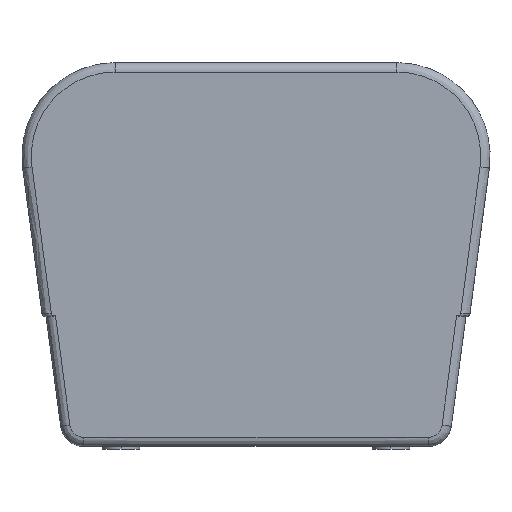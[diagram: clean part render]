
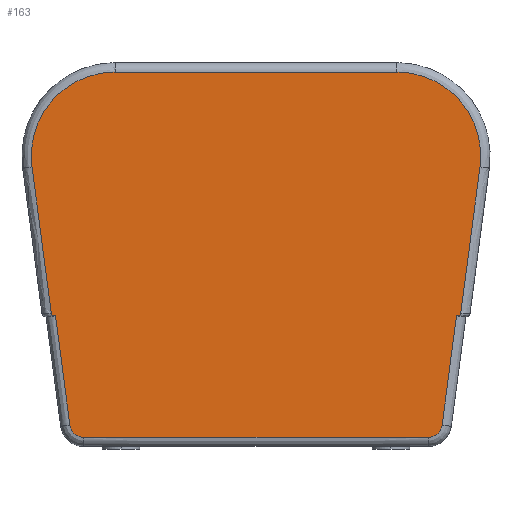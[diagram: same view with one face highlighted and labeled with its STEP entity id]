
A CAD part, left-side view. The second image highlights one B-rep face of the part: STEP entity #163.
In plain terms, the highlighted planar face has unit normal (-1, 0, 0).
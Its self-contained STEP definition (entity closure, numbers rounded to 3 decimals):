
#163=ADVANCED_FACE('',(#217),#876,.T.);
#217=FACE_OUTER_BOUND('',#271,.T.);
#271=EDGE_LOOP('',(#465,#466,#467,#468,#469,#470,#471,#472,#473,#474,#475,
#476));
#465=ORIENTED_EDGE('',*,*,#611,.F.);
#466=ORIENTED_EDGE('',*,*,#610,.F.);
#467=ORIENTED_EDGE('',*,*,#614,.T.);
#468=ORIENTED_EDGE('',*,*,#612,.T.);
#469=ORIENTED_EDGE('',*,*,#613,.T.);
#470=ORIENTED_EDGE('',*,*,#605,.T.);
#471=ORIENTED_EDGE('',*,*,#604,.F.);
#472=ORIENTED_EDGE('',*,*,#606,.F.);
#473=ORIENTED_EDGE('',*,*,#607,.F.);
#474=ORIENTED_EDGE('',*,*,#608,.T.);
#475=ORIENTED_EDGE('',*,*,#609,.T.);
#476=ORIENTED_EDGE('',*,*,#603,.T.);
#603=EDGE_CURVE('',#839,#838,#742,.T.);
#604=EDGE_CURVE('',#849,#840,#743,.T.);
#605=EDGE_CURVE('',#841,#840,#744,.T.);
#606=EDGE_CURVE('',#848,#849,#745,.T.);
#607=EDGE_CURVE('',#844,#848,#746,.T.);
#608=EDGE_CURVE('',#844,#845,#747,.T.);
#609=EDGE_CURVE('',#845,#839,#748,.T.);
#610=EDGE_CURVE('',#843,#842,#749,.T.);
#611=EDGE_CURVE('',#842,#838,#750,.T.);
#612=EDGE_CURVE('',#847,#846,#751,.T.);
#613=EDGE_CURVE('',#846,#841,#752,.T.);
#614=EDGE_CURVE('',#843,#847,#753,.T.);
#742=(
BOUNDED_CURVE()
B_SPLINE_CURVE(3,(#2067,#2068,#2069,#2070),.UNSPECIFIED.,.F.,.F.)
B_SPLINE_CURVE_WITH_KNOTS((4,4),(1527.05,1533.654),
 .UNSPECIFIED.)
CURVE()
GEOMETRIC_REPRESENTATION_ITEM()
RATIONAL_B_SPLINE_CURVE((1.,1.,1.,1.))
REPRESENTATION_ITEM('')
);
#743=(
BOUNDED_CURVE()
B_SPLINE_CURVE(3,(#2071,#2072,#2073,#2074),.UNSPECIFIED.,.F.,.F.)
B_SPLINE_CURVE_WITH_KNOTS((4,4),(-725.281,-566.622),
 .UNSPECIFIED.)
CURVE()
GEOMETRIC_REPRESENTATION_ITEM()
RATIONAL_B_SPLINE_CURVE((1.,1.,1.,1.))
REPRESENTATION_ITEM('')
);
#744=(
BOUNDED_CURVE()
B_SPLINE_CURVE(3,(#2075,#2076,#2077,#2078),.UNSPECIFIED.,.F.,.F.)
B_SPLINE_CURVE_WITH_KNOTS((4,4),(560.018,566.622),
 .UNSPECIFIED.)
CURVE()
GEOMETRIC_REPRESENTATION_ITEM()
RATIONAL_B_SPLINE_CURVE((1.,1.,1.,1.))
REPRESENTATION_ITEM('')
);
#745=(
BOUNDED_CURVE()
B_SPLINE_CURVE(3,(#2079,#2080,#2081,#2082,#2083,#2084,#2085),
 .UNSPECIFIED.,.F.,.F.)
B_SPLINE_CURVE_WITH_KNOTS((4,3,4),(-895.538,-810.409,
-725.281),.UNSPECIFIED.)
CURVE()
GEOMETRIC_REPRESENTATION_ITEM()
RATIONAL_B_SPLINE_CURVE((1.,0.941,0.941,1.,
0.941,0.941,1.))
REPRESENTATION_ITEM('')
);
#746=(
BOUNDED_CURVE()
B_SPLINE_CURVE(3,(#2086,#2087,#2088,#2089),.UNSPECIFIED.,.F.,.F.)
B_SPLINE_CURVE_WITH_KNOTS((4,4),(-1198.134,-895.538),
 .UNSPECIFIED.)
CURVE()
GEOMETRIC_REPRESENTATION_ITEM()
RATIONAL_B_SPLINE_CURVE((1.,1.,1.,1.))
REPRESENTATION_ITEM('')
);
#747=(
BOUNDED_CURVE()
B_SPLINE_CURVE(3,(#2090,#2091,#2092,#2093,#2094,#2095,#2096),
 .UNSPECIFIED.,.F.,.F.)
B_SPLINE_CURVE_WITH_KNOTS((4,3,4),(1198.134,1283.263,1368.391),
 .UNSPECIFIED.)
CURVE()
GEOMETRIC_REPRESENTATION_ITEM()
RATIONAL_B_SPLINE_CURVE((1.,0.941,0.941,1.,
0.941,0.941,1.))
REPRESENTATION_ITEM('')
);
#748=(
BOUNDED_CURVE()
B_SPLINE_CURVE(3,(#2097,#2098,#2099,#2100),.UNSPECIFIED.,.F.,.F.)
B_SPLINE_CURVE_WITH_KNOTS((4,4),(1368.391,1527.05),
 .UNSPECIFIED.)
CURVE()
GEOMETRIC_REPRESENTATION_ITEM()
RATIONAL_B_SPLINE_CURVE((1.,1.,1.,1.))
REPRESENTATION_ITEM('')
);
#749=(
BOUNDED_CURVE()
B_SPLINE_CURVE(3,(#2101,#2102,#2103,#2104,#2105,#2106,#2107),
 .UNSPECIFIED.,.F.,.F.)
B_SPLINE_CURVE_WITH_KNOTS((4,1,1,1,4),(-35.976,-27.282,
-17.988,-8.693,0.),.UNSPECIFIED.)
CURVE()
GEOMETRIC_REPRESENTATION_ITEM()
RATIONAL_B_SPLINE_CURVE((1.,1.,1.,1.,1.,1.,1.))
REPRESENTATION_ITEM('')
);
#750=(
BOUNDED_CURVE()
B_SPLINE_CURVE(3,(#2108,#2109,#2110,#2111),.UNSPECIFIED.,.F.,.F.)
B_SPLINE_CURVE_WITH_KNOTS((4,4),(-118.236,0.),.UNSPECIFIED.)
CURVE()
GEOMETRIC_REPRESENTATION_ITEM()
RATIONAL_B_SPLINE_CURVE((1.,1.,1.,1.))
REPRESENTATION_ITEM('')
);
#751=(
BOUNDED_CURVE()
B_SPLINE_CURVE(3,(#2112,#2113,#2114,#2115,#2116,#2117,#2118),
 .UNSPECIFIED.,.F.,.F.)
B_SPLINE_CURVE_WITH_KNOTS((4,1,1,1,4),(-35.976,-27.282,
-17.988,-8.693,0.),.UNSPECIFIED.)
CURVE()
GEOMETRIC_REPRESENTATION_ITEM()
RATIONAL_B_SPLINE_CURVE((1.,1.,1.,1.,1.,1.,1.))
REPRESENTATION_ITEM('')
);
#752=(
BOUNDED_CURVE()
B_SPLINE_CURVE(3,(#2119,#2120,#2121,#2122),.UNSPECIFIED.,.F.,.F.)
B_SPLINE_CURVE_WITH_KNOTS((4,4),(-118.236,0.),.UNSPECIFIED.)
CURVE()
GEOMETRIC_REPRESENTATION_ITEM()
RATIONAL_B_SPLINE_CURVE((1.,1.,1.,1.))
REPRESENTATION_ITEM('')
);
#753=(
BOUNDED_CURVE()
B_SPLINE_CURVE(3,(#2123,#2124,#2125,#2126),.UNSPECIFIED.,.F.,.F.)
B_SPLINE_CURVE_WITH_KNOTS((4,4),(-369.831,0.),.UNSPECIFIED.)
CURVE()
GEOMETRIC_REPRESENTATION_ITEM()
RATIONAL_B_SPLINE_CURVE((1.,1.,1.,1.))
REPRESENTATION_ITEM('')
);
#838=VERTEX_POINT('',#2055);
#839=VERTEX_POINT('',#2056);
#840=VERTEX_POINT('',#2057);
#841=VERTEX_POINT('',#2058);
#842=VERTEX_POINT('',#2059);
#843=VERTEX_POINT('',#2060);
#844=VERTEX_POINT('',#2061);
#845=VERTEX_POINT('',#2062);
#846=VERTEX_POINT('',#2063);
#847=VERTEX_POINT('',#2064);
#848=VERTEX_POINT('',#2065);
#849=VERTEX_POINT('',#2066);
#876=PLANE('',#950);
#950=AXIS2_PLACEMENT_3D('',#2054,#971,$);
#971=DIRECTION('',(-1.,0.,0.));
#2054=CARTESIAN_POINT('',(0.,-248.859,408.92));
#2055=CARTESIAN_POINT('',(0.,215.32,143.24));
#2056=CARTESIAN_POINT('',(0.,219.672,145.892));
#2057=CARTESIAN_POINT('',(0.,-219.672,145.892));
#2058=CARTESIAN_POINT('',(0.,-215.32,143.24));
#2059=CARTESIAN_POINT('',(0.,199.785,26.029));
#2060=CARTESIAN_POINT('',(0.,184.915,13.));
#2061=CARTESIAN_POINT('',(0.,151.298,405.));
#2062=CARTESIAN_POINT('',(0.,240.518,303.175));
#2063=CARTESIAN_POINT('',(0.,-199.785,26.029));
#2064=CARTESIAN_POINT('',(0.,-184.915,13.));
#2065=CARTESIAN_POINT('',(0.,-151.298,405.));
#2066=CARTESIAN_POINT('',(0.,-240.518,303.175));
#2067=CARTESIAN_POINT('',(0.,219.672,145.892));
#2068=CARTESIAN_POINT('',(0.,219.672,143.997));
#2069=CARTESIAN_POINT('',(0.,218.221,143.113));
#2070=CARTESIAN_POINT('',(0.,215.32,143.24));
#2071=CARTESIAN_POINT('',(0.,-240.518,303.175));
#2072=CARTESIAN_POINT('',(0.,-233.569,250.747));
#2073=CARTESIAN_POINT('',(0.,-226.621,198.319));
#2074=CARTESIAN_POINT('',(0.,-219.672,145.892));
#2075=CARTESIAN_POINT('',(0.,-215.32,143.24));
#2076=CARTESIAN_POINT('',(0.,-218.221,143.113));
#2077=CARTESIAN_POINT('',(0.,-219.672,143.997));
#2078=CARTESIAN_POINT('',(0.,-219.672,145.892));
#2079=CARTESIAN_POINT('',(0.,-151.298,405.));
#2080=CARTESIAN_POINT('',(0.,-177.639,405.));
#2081=CARTESIAN_POINT('',(0.,-201.63,394.124));
#2082=CARTESIAN_POINT('',(0.,-218.99,374.312));
#2083=CARTESIAN_POINT('',(0.,-236.349,354.5));
#2084=CARTESIAN_POINT('',(0.,-243.979,329.288));
#2085=CARTESIAN_POINT('',(0.,-240.518,303.175));
#2086=CARTESIAN_POINT('',(0.,151.298,405.));
#2087=CARTESIAN_POINT('',(0.,50.433,405.));
#2088=CARTESIAN_POINT('',(0.,-50.433,405.));
#2089=CARTESIAN_POINT('',(0.,-151.298,405.));
#2090=CARTESIAN_POINT('',(0.,151.298,405.));
#2091=CARTESIAN_POINT('',(0.,177.639,405.));
#2092=CARTESIAN_POINT('',(0.,201.63,394.124));
#2093=CARTESIAN_POINT('',(0.,218.99,374.312));
#2094=CARTESIAN_POINT('',(0.,236.349,354.5));
#2095=CARTESIAN_POINT('',(0.,243.979,329.288));
#2096=CARTESIAN_POINT('',(0.,240.518,303.175));
#2097=CARTESIAN_POINT('',(0.,240.518,303.175));
#2098=CARTESIAN_POINT('',(0.,233.569,250.747));
#2099=CARTESIAN_POINT('',(0.,226.621,198.319));
#2100=CARTESIAN_POINT('',(0.,219.672,145.892));
#2101=CARTESIAN_POINT('',(0.,184.915,13.));
#2102=CARTESIAN_POINT('',(0.,186.654,12.999));
#2103=CARTESIAN_POINT('',(0.,190.251,13.632));
#2104=CARTESIAN_POINT('',(0.,195.031,16.455));
#2105=CARTESIAN_POINT('',(0.,198.458,20.823));
#2106=CARTESIAN_POINT('',(0.,199.558,24.305));
#2107=CARTESIAN_POINT('',(0.,199.785,26.029));
#2108=CARTESIAN_POINT('',(0.,199.785,26.029));
#2109=CARTESIAN_POINT('',(0.,204.964,65.1));
#2110=CARTESIAN_POINT('',(0.,210.142,104.17));
#2111=CARTESIAN_POINT('',(0.,215.32,143.24));
#2112=CARTESIAN_POINT('',(0.,-184.915,13.));
#2113=CARTESIAN_POINT('',(0.,-186.654,12.999));
#2114=CARTESIAN_POINT('',(0.,-190.251,13.632));
#2115=CARTESIAN_POINT('',(0.,-195.031,16.455));
#2116=CARTESIAN_POINT('',(0.,-198.458,20.823));
#2117=CARTESIAN_POINT('',(0.,-199.558,24.305));
#2118=CARTESIAN_POINT('',(0.,-199.785,26.029));
#2119=CARTESIAN_POINT('',(0.,-199.785,26.029));
#2120=CARTESIAN_POINT('',(0.,-204.964,65.1));
#2121=CARTESIAN_POINT('',(0.,-210.142,104.17));
#2122=CARTESIAN_POINT('',(0.,-215.32,143.24));
#2123=CARTESIAN_POINT('',(0.,184.915,13.));
#2124=CARTESIAN_POINT('',(0.,61.638,13.));
#2125=CARTESIAN_POINT('',(0.,-61.638,13.));
#2126=CARTESIAN_POINT('',(0.,-184.915,13.));
